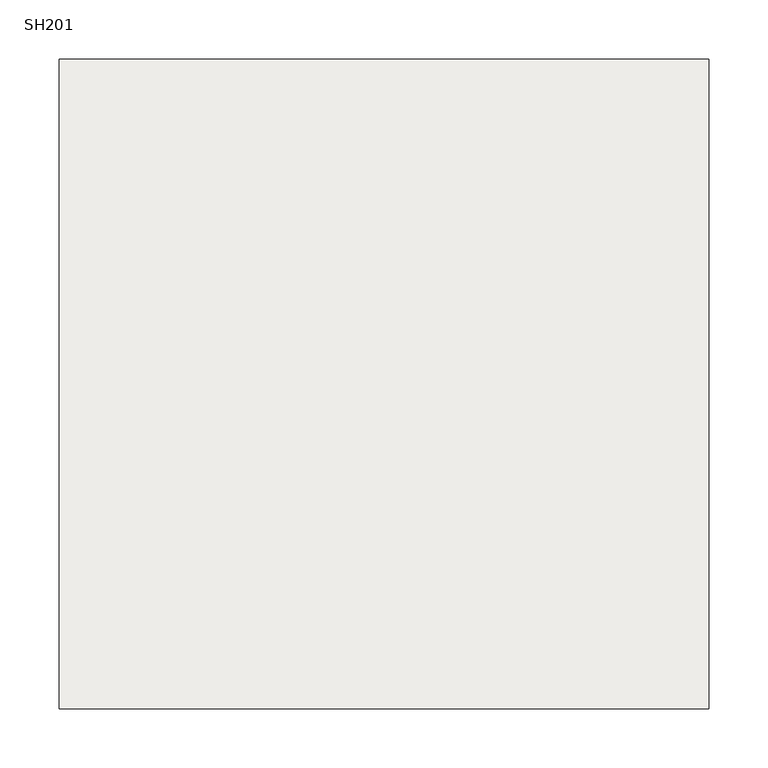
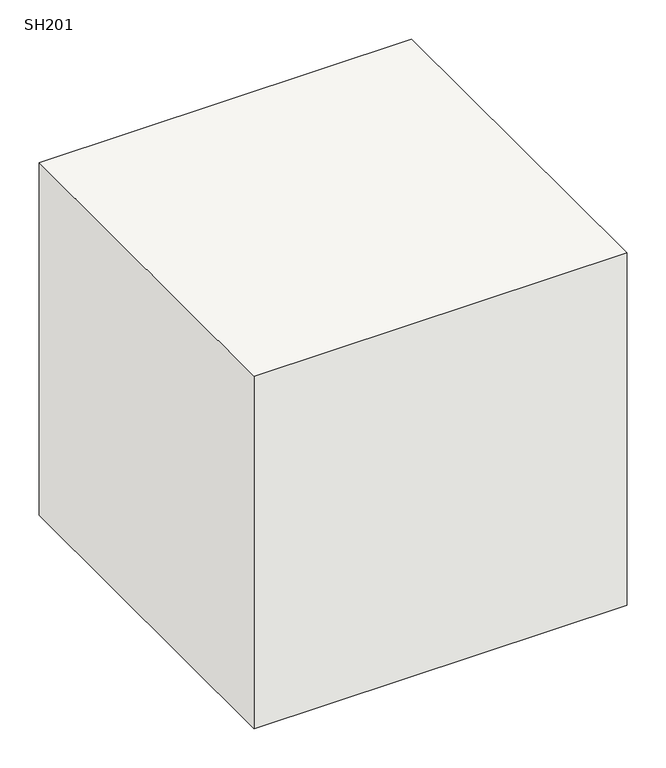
"""IFC4 building model written with IfcOpenShell, lengths in millimetres: slab geometry, 柱形_SH : SH201."""

import ifcopenshell
import ifcopenshell.guid

model = None  # the IFC model being written
_history = None  # IfcOwnerHistory: only IFC2X3 demands one
_inside = {}  # id of a spatial element -> (the spatial element, [elements in it])
_under = {}  # id of a project, library or spatial element -> (it, [spatial elements below it])
_declared = {}  # id of a project -> (the project, [libraries it declares])
_typed = {}  # id of a type object -> (the type object, [elements of that type])
_made_of = {}  # id of a material, layer set ... -> (it, [elements and type objects made of it])


def new_model(schema):
    """Start an empty IFC model of exactly this schema.

    Asked for "IFC4X3", IfcOpenShell would pick the latest addendum, in which some entities
    have other attributes; the version numbers below select the first issue.
    IFC2X3 requires an IfcOwnerHistory on every rooted entity: one is made here for all.
    """
    global model, _history
    if schema == "IFC4X3":
        model = ifcopenshell.file(schema_version=(4, 3, 0, 0))
    else:
        model = ifcopenshell.file(schema=schema)
    _inside.clear()
    _under.clear()
    _declared.clear()
    _typed.clear()
    _made_of.clear()
    _history = None
    if model.schema == "IFC2X3":
        org = make("IfcOrganization", Name="unknown")
        user = make(
            "IfcPersonAndOrganization",
            ThePerson=make("IfcPerson", FamilyName="unknown"),
            TheOrganization=org,
        )
        app = make(
            "IfcApplication",
            ApplicationDeveloper=org,
            Version="unknown",
            ApplicationFullName="unknown",
            ApplicationIdentifier="unknown",
        )
        _history = make(
            "IfcOwnerHistory",
            OwningUser=user,
            OwningApplication=app,
            ChangeAction="ADDED",
            CreationDate=0,
        )
    return model


def make(cls, **values):
    """One entity of the class cls with the attributes given. An attribute that is None is left unset."""
    return model.create_entity(
        cls, **{name: value for name, value in values.items() if value is not None}
    )


def rooted(cls, **values):
    """An entity with a GlobalId (a new one), such as an element, a storey or a relation."""
    return make(cls, GlobalId=ifcopenshell.guid.new(), OwnerHistory=_history, **values)


def si_unit(unit_type, name, prefix=None):
    """IfcSIUnit, for example si_unit("LENGTHUNIT", "METRE", prefix="MILLI")."""
    return make("IfcSIUnit", UnitType=unit_type, Prefix=prefix, Name=name)


def assignment(units):
    """IfcUnitAssignment: the units of a project."""
    return None if units is None else make("IfcUnitAssignment", Units=units)


def point(xyz):
    """IfcCartesianPoint."""
    return None if xyz is None else make("IfcCartesianPoint", Coordinates=xyz)


def direction(xyz):
    """IfcDirection."""
    return None if xyz is None else make("IfcDirection", DirectionRatios=xyz)


def frame(location, z_axis=None, x_axis=None):
    """IfcAxis2Placement3D, a coordinate frame: its origin and axes. An axis left out is left unset."""
    return make(
        "IfcAxis2Placement3D",
        Location=point(location),
        Axis=direction(z_axis),
        RefDirection=direction(x_axis),
    )


def origin():
    """The frame at (0, 0, 0) with its axes left unset."""
    return frame((0.0, 0.0, 0.0))


def place(relative_to, where):
    """IfcLocalPlacement: puts the frame where relative to a parent placement (None: the world)."""
    return make(
        "IfcLocalPlacement", PlacementRelTo=relative_to, RelativePlacement=where
    )


def context(
    kind, dimensions, precision=None, world=None, true_north=None, identifier=None
):
    """IfcGeometricRepresentationContext, for example the 3D "Model" context."""
    return make(
        "IfcGeometricRepresentationContext",
        ContextIdentifier=identifier,
        ContextType=kind,
        CoordinateSpaceDimension=dimensions,
        Precision=precision,
        WorldCoordinateSystem=world,
        TrueNorth=true_north,
    )


def project(units=None, contexts=None):
    """IfcProject with its units and contexts."""
    return rooted(
        "IfcProject",
        Name="project",
        RepresentationContexts=contexts,
        UnitsInContext=assignment(units),
    )


def spatial(cls, under=None, at=None, **own):
    """A site, building, storey or space (cls), placed at a placement, below another one or the project."""
    s = rooted(cls, ObjectPlacement=at, **own)
    if under is not None:
        _under.setdefault(under.id(), (under, []))[1].append(s)
    return s


def polyline(points):
    """IfcPolyline through the points."""
    return make("IfcPolyline", Points=[point(p) for p in points])


def outline(outer, holes=None, kind="AREA"):
    """IfcArbitraryClosedProfileDef: a profile drawn as a closed curve; with holes, ...WithVoids."""
    if holes is None:
        return make("IfcArbitraryClosedProfileDef", ProfileType=kind, OuterCurve=outer)
    return make(
        "IfcArbitraryProfileDefWithVoids",
        ProfileType=kind,
        OuterCurve=outer,
        InnerCurves=holes,
    )


def extrude(swept, where, along, depth):
    """IfcExtrudedAreaSolid: the profile swept, set in the frame where, extruded along a direction by depth."""
    return make(
        "IfcExtrudedAreaSolid",
        SweptArea=swept,
        Position=where,
        ExtrudedDirection=direction(along),
        Depth=depth,
    )


def shape(context_of_items, identifier, shape_type, items):
    """IfcShapeRepresentation: the items that make up one representation, for example the "Body"."""
    return make(
        "IfcShapeRepresentation",
        ContextOfItems=context_of_items,
        RepresentationIdentifier=identifier,
        RepresentationType=shape_type,
        Items=items,
    )


def source(mapping_origin, context_of_items, identifier, shape_type, items):
    """IfcRepresentationMap: a shape defined once, which mapped items show again and again."""
    return make(
        "IfcRepresentationMap",
        MappingOrigin=mapping_origin,
        MappedRepresentation=shape(context_of_items, identifier, shape_type, items),
    )


def transform(
    local_origin,
    x_axis=None,
    y_axis=None,
    z_axis=None,
    scale=None,
    scale2=None,
    scale3=None,
    uniform=True,
):
    """IfcCartesianTransformationOperator3D, or its non-uniform kind. x_axis, y_axis, z_axis: its Axis1, 2, 3."""
    if uniform:
        return make(
            "IfcCartesianTransformationOperator3D",
            Axis1=direction(x_axis),
            Axis2=direction(y_axis),
            LocalOrigin=point(local_origin),
            Scale=scale,
            Axis3=direction(z_axis),
        )
    return make(
        "IfcCartesianTransformationOperator3DnonUniform",
        Axis1=direction(x_axis),
        Axis2=direction(y_axis),
        LocalOrigin=point(local_origin),
        Scale=scale,
        Axis3=direction(z_axis),
        Scale2=scale2,
        Scale3=scale3,
    )


def mapped(mapping_source, mapping_target):
    """IfcMappedItem: shows the shape of a source again, moved by a transform."""
    return make(
        "IfcMappedItem", MappingSource=mapping_source, MappingTarget=mapping_target
    )


def made_of(thing, what):
    """Note that an element or type object is made of a material, layer set ...; save() writes the relation."""
    if what is not None:
        _made_of.setdefault(what.id(), (what, []))[1].append(thing)
    return thing


def element(
    cls,
    number,
    at=None,
    inside=None,
    cuts=None,
    type_object=None,
    material=None,
    context=None,
    identifier="Body",
    shape_type=None,
    held_by="IfcProductDefinitionShape",
    body=None,
    shapes=None,
    **own,
):
    """One element of the class cls, such as IfcWall. Its Tag is "e" and its number.

    at: its placement. inside: the storey or other place that contains it. cuts: it is an
    opening in that element (IfcRelVoidsElement). A single representation is given by context,
    identifier, shape_type and body (its items); several are given by shapes. held_by: the class
    of the entity that holds the representations. save() writes the other relations.
    """
    e = rooted(cls, Tag="e%d" % number, ObjectPlacement=at, **own)
    if body is not None:
        shapes = [shape(context, identifier, shape_type, body)]
    if shapes is not None:
        e.Representation = make(held_by, Representations=shapes)
    if inside is not None:
        _inside.setdefault(inside.id(), (inside, []))[1].append(e)
    if cuts is not None:
        rooted(
            "IfcRelVoidsElement", RelatingBuildingElement=cuts, RelatedOpeningElement=e
        )
    if type_object is not None:
        _typed.setdefault(type_object.id(), (type_object, []))[1].append(e)
    return made_of(e, material)


def aggregate(whole, parts):
    """IfcRelAggregates: a whole, such as a stair, and the parts it consists of."""
    return rooted("IfcRelAggregates", RelatingObject=whole, RelatedObjects=parts)


def save(model, path):
    """Write the relations noted so far, then the file.

    IfcRelAggregates (storeys below a building ...), IfcRelContainedInSpatialStructure (elements
    in a storey), IfcRelDefinesByType, IfcRelAssociatesMaterial and IfcRelDeclares: one each for
    every whole, place, type object, material and project.
    """
    for whole, parts in _under.values():
        aggregate(whole, parts)
    for where, things in _inside.values():
        rooted(
            "IfcRelContainedInSpatialStructure",
            RelatedElements=things,
            RelatingStructure=where,
        )
    for kind, things in _typed.values():
        rooted("IfcRelDefinesByType", RelatedObjects=things, RelatingType=kind)
    for what, things in _made_of.values():
        rooted("IfcRelAssociatesMaterial", RelatedObjects=things, RelatingMaterial=what)
    for by, libraries in _declared.values():
        rooted("IfcRelDeclares", RelatingContext=by, RelatedDefinitions=libraries)
    model.write(path)


def sh201_967e3658(model_context):
    return source(origin(), model_context, "Body", "SweptSolid", [
        extrude(outline(polyline([(275.0, 275.0), (275.0, -275.0), (-275.0, -275.0), (-275.0, 275.0), (275.0, 275.0)])), frame((0.0, 0.0, -550.0), z_axis=(0.0, 0.0, 1.0), x_axis=(1.0, 0.0, 0.0)), (0.0, 0.0, 1.0), 550.0),
    ])


if __name__ == "__main__":
    model = new_model("IFC4")
    model_context = context("Model", 3, world=origin())
    ifc_project = project(units=[si_unit("LENGTHUNIT", "METRE", prefix="MILLI")], contexts=[model_context])
    site = spatial("IfcSite", under=ifc_project)
    building = spatial("IfcBuilding", under=site)
    placement = place(None, origin())
    sh201_shape = sh201_967e3658(model_context)
    element("IfcSlab", 1, ObjectType="柱形_SH : SH201", at=placement, inside=building, context=model_context, shape_type="MappedRepresentation", body=[
        mapped(sh201_shape, transform((0.0, 0.0, 0.0), x_axis=(1.0, 0.0, 0.0), y_axis=(0.0, 1.0, 0.0), z_axis=(0.0, 0.0, 1.0))),
    ])
    save(model, "model.ifc")
